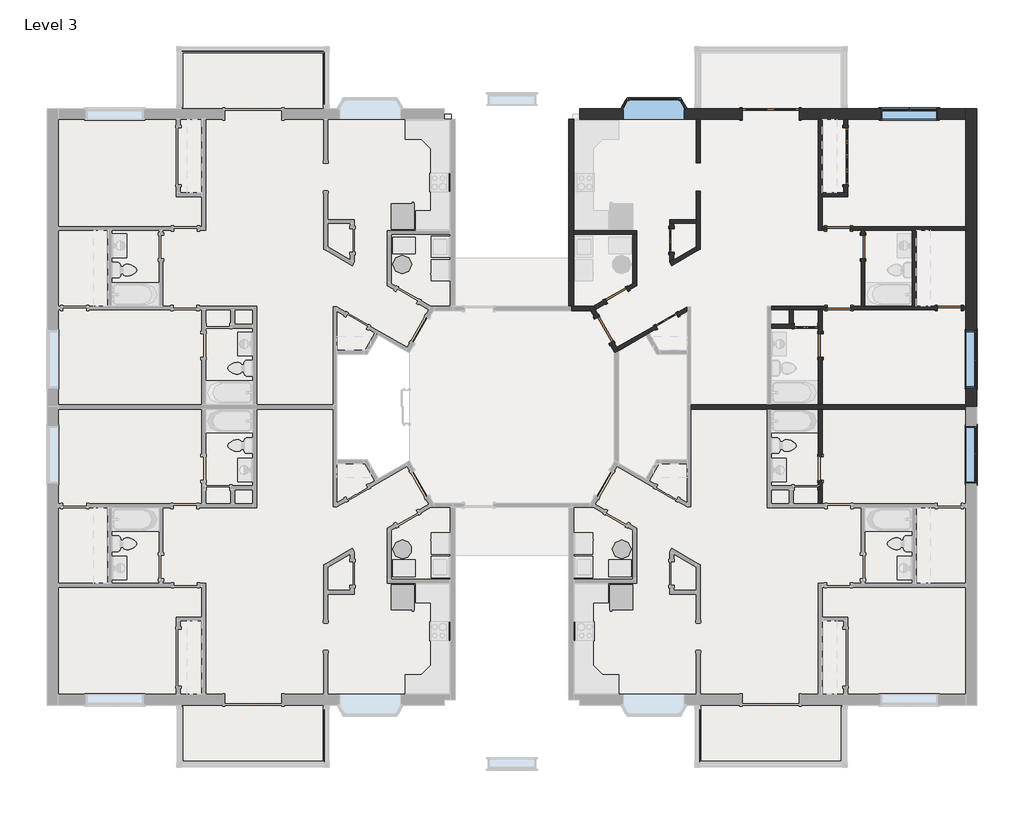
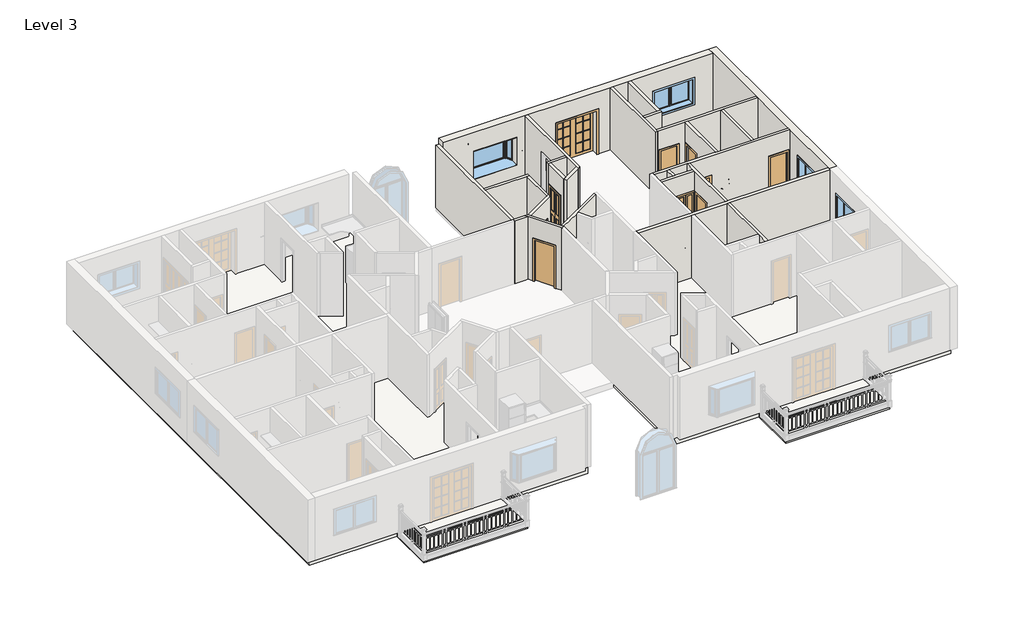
# One storey, part 4 of 5: 25 walls, 12 doors, 4 windows, 3 slabs.
"""IFC4 building model written with IfcOpenShell, lengths in millimetres."""

from ifc_helpers import new_model, si_unit, frame, origin, place, context, project, spatial, polyline, outline, extrude, faceted_brep, transform, mapped, element, save
from components import door_28b41c19, door_77c9d7c5, door_c95ce901, door_0a477ef8, door_91cbdfe0, door_39079f6b, door_140ee3fe, window_fb9100aa, window_565d5888, window_801eb773

model = new_model("IFC4")

# Units and contexts
model_context = context("Model", 3, world=origin())
ifc_project = project(units=[si_unit("LENGTHUNIT", "METRE", prefix="MILLI")], contexts=[model_context])

# Site, building, storey
site = spatial("IfcSite", under=ifc_project)
building = spatial("IfcBuilding", under=site)
storey = spatial("IfcBuildingStorey", under=building, Name="Level 3", Elevation=6096.0)

# Doors
placement = place(None, origin())
door_shape = door_28b41c19(model_context)
element("IfcDoor", 1, ObjectType="Bifold-2 Panel : 30\" x 80\"", at=placement, inside=storey, context=model_context, shape_type="MappedRepresentation", body=[
    mapped(door_shape, transform((8842.0499602, 4399.2713201, 6096.0), x_axis=(1.0, 0.0, 0.0), y_axis=(0.0, 1.0, 0.0), z_axis=(0.0, 0.0, 1.0))),
])
door_2_shape = door_77c9d7c5(model_context)
element("IfcDoor", 2, ObjectType="Bifold-2 Panel : 30\" x 80\"", at=placement, inside=storey, context=model_context, shape_type="MappedRepresentation", body=[
    mapped(door_2_shape, transform((4512.9374602, 7161.5213201, 6096.0), x_axis=(0.0, 1.0, 0.0), y_axis=(-1.0, 0.0, 0.0), z_axis=(0.0, 0.0, 1.0))),
])
element("IfcDoor", 3, ObjectType="Bifold-2 Panel : 30\" x 80\"", at=placement, inside=storey, context=model_context, shape_type="MappedRepresentation", body=[
    mapped(door_2_shape, transform((4356.3593145, 4569.8411376, 6096.0), x_axis=(0.8660254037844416, 0.4999999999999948, 0.0), y_axis=(-0.4999999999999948, 0.8660254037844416, 0.0), z_axis=(0.0, 0.0, 1.0))),
])
door_3_shape = door_c95ce901(model_context)
element("IfcDoor", 4, ObjectType="Bifold-4 Panel : 72\" x 80\"", at=placement, inside=storey, context=model_context, shape_type="MappedRepresentation", body=[
    mapped(door_3_shape, transform((10123.1624602, 9879.3213201, 6096.0), x_axis=(0.0, -1.0, 0.0), y_axis=(1.0, 0.0, 0.0), z_axis=(0.0, 0.0, 1.0))),
])
door_4_shape = door_0a477ef8(model_context)
element("IfcDoor", 5, ObjectType="Double-Glass 2 : 72\" x 84\"", at=placement, inside=storey, context=model_context, shape_type="MappedRepresentation", body=[
    mapped(door_4_shape, transform((7708.5749602, 11238.2213201, 6096.0), x_axis=(1.0, 0.0, 0.0), y_axis=(0.0, 1.0, 0.0), z_axis=(0.0, 0.0, 1.0))),
])
door_5_shape = door_91cbdfe0(model_context)
element("IfcDoor", 6, ObjectType="Single-Flush : 30\" x 80\"", at=placement, inside=storey, context=model_context, shape_type="MappedRepresentation", body=[
    mapped(door_5_shape, transform((9889.7999602, 7545.6963201, 6096.0), x_axis=(-1.0, 0.0, 0.0), y_axis=(0.0, -1.0, 0.0), z_axis=(0.0, 0.0, 1.0))),
])
element("IfcDoor", 7, ObjectType="Single-Flush : 30\" x 80\"", at=placement, inside=storey, context=model_context, shape_type="MappedRepresentation", body=[
    mapped(door_5_shape, transform((2740.2368992, 5400.5472723, 6096.0), x_axis=(-0.866025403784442, -0.49999999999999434, 0.0), y_axis=(0.49999999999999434, -0.866025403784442, 0.0), z_axis=(0.0, 0.0, 1.0))),
])
element("IfcDoor", 8, ObjectType="Single-Flush : 30\" x 80\"", at=placement, inside=storey, context=model_context, shape_type="MappedRepresentation", body=[
    mapped(door_5_shape, transform((10685.1374602, 6950.3838201, 6096.0), x_axis=(0.0, 1.0, 0.0), y_axis=(-1.0, 0.0, 0.0), z_axis=(0.0, 0.0, 1.0))),
])
door_6_shape = door_39079f6b(model_context)
element("IfcDoor", 9, ObjectType="Single-Flush : 30\" x 80\"", at=placement, inside=storey, context=model_context, shape_type="MappedRepresentation", body=[
    mapped(door_6_shape, transform((9905.6749602, 4983.4713201, 6096.0), x_axis=(-1.0, 0.0, 0.0), y_axis=(0.0, -1.0, 0.0), z_axis=(0.0, 0.0, 1.0))),
])
element("IfcDoor", 10, ObjectType="Single-Flush : 30\" x 80\"", at=placement, inside=storey, context=model_context, shape_type="MappedRepresentation", body=[
    mapped(door_6_shape, transform((9310.3624602, 3775.3838201, 6096.0), x_axis=(0.0, 1.0, 0.0), y_axis=(-1.0, 0.0, 0.0), z_axis=(0.0, 0.0, 1.0))),
])
element("IfcDoor", 11, ObjectType="Single-Flush : 30\" x 80\"", at=placement, inside=storey, context=model_context, shape_type="MappedRepresentation", body=[
    mapped(door_6_shape, transform((13461.6749602, 4983.4713201, 6096.0), x_axis=(1.0, 0.0, 0.0), y_axis=(0.0, 1.0, 0.0), z_axis=(0.0, 0.0, 1.0))),
])
door_7_shape = door_140ee3fe(model_context)
element("IfcDoor", 12, ObjectType="Single-Flush : 36\" x 80\"", at=placement, inside=storey, context=model_context, shape_type="MappedRepresentation", body=[
    mapped(door_7_shape, transform((2339.4553258, 4278.6213201, 6096.0), x_axis=(0.4999999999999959, -0.866025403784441, 0.0), y_axis=(0.866025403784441, 0.4999999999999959, 0.0), z_axis=(0.0, 0.0, 1.0))),
])

# Slabs
element("IfcSlab", 13, ObjectType="Generic - 12\"", at=placement, inside=storey, context=model_context, shape_type="SweptSolid", body=[
    extrude(outline(polyline([(-11387.4625398, -7635.5661799), (-15424.4750398, -7635.5661799), (-15424.4750398, 1744.9713201), (-6331.2750398, 1744.9713201), (-6331.2750398, 41.0951778), (-5327.4917096, 41.0951778), (-4955.4044712, -603.3788241), (-3977.9107726, -39.0225741), (-3207.8085908, -1372.8786799), (-2589.5375398, -1372.8786799), (-2589.5375398, -7635.5661799), (-6578.9250398, -7635.5661799), (-6578.9250398, -9769.1661799), (-11387.4625398, -9769.1661799), (-11387.4625398, -7635.5661799)])), frame((0.0, 0.0, 5791.2), z_axis=(0.0, 0.0, 1.0), x_axis=(1.0, 0.0, 0.0)), (0.0, 0.0, 1.0), 304.8),
])
element("IfcSlab", 14, ObjectType="Generic - 12\"", at=placement, inside=storey, context=model_context, shape_type="SweptSolid", body=[
    extrude(outline(polyline([(-11387.4625398, 11227.1088201), (-11387.4625398, 13360.7088201), (-6578.9250398, 13360.7088201), (-6578.9250398, 11227.1088201), (-2589.5375398, 11227.1088201), (-2589.5375398, 4964.4213201), (-3207.8085908, 4964.4213201), (-3977.9107726, 3630.5652142), (-4955.4044712, 4194.9214642), (-5327.4917096, 3550.4474624), (-6331.2750398, 3550.4474624), (-6331.2750398, 1846.5713201), (-15424.4750398, 1846.5713201), (-15424.4750398, 11227.1088201), (-11387.4625398, 11227.1088201)])), frame((0.0, 0.0, 5791.2), z_axis=(0.0, 0.0, 1.0), x_axis=(1.0, 0.0, 0.0)), (0.0, 0.0, 1.0), 304.8),
])
element("IfcSlab", 15, ObjectType="Generic - 12\"", at=placement, inside=storey, context=model_context, shape_type="SweptSolid", body=[
    extrude(outline(polyline([(10123.1624602, -7635.5661799), (10123.1624602, -9769.1661799), (5314.6249602, -9769.1661799), (5314.6249602, -7635.5661799), (1325.2374602, -7635.5661799), (1325.2374602, -1372.8786799), (1943.5085112, -1372.8786799), (2713.610693, -39.0225741), (3691.1043915, -603.3788241), (4063.19163, 41.0951778), (5066.9749602, 41.0951778), (5066.9749602, 1744.9713201), (14160.1749602, 1744.9713201), (14160.1749602, -7635.5661799), (10123.1624602, -7635.5661799)])), frame((0.0, 0.0, 5791.2), z_axis=(0.0, 0.0, 1.0), x_axis=(1.0, 0.0, 0.0)), (0.0, 0.0, 1.0), 304.8),
])

# Walls
element("IfcWall", 16, ObjectType="Exterior - Brick on Mtl. Stud", at=placement, inside=storey, context=model_context, shape_type="Brep", body=[
    faceted_brep([(13995.0749602, 11414.4338201, 6096.0), (8622.9749602, 11414.4338201, 6096.0), (8622.9749602, 11414.4338201, 8229.6), (6794.1749602, 11414.4338201, 8229.6), (6794.1749602, 11414.4338201, 6096.0), (1549.0749602, 11414.4338201, 6096.0), (1549.0749602, 11414.4338201, 9144.0), (13995.0749602, 11414.4338201, 9144.0), (4995.4531942, 11414.4338201, 8229.6), (2887.3374602, 11414.4338201, 8229.6), (2887.3374602, 11414.4338201, 6858.0), (4995.4531942, 11414.4338201, 6858.0), (13086.2312102, 11414.4338201, 8229.6), (11257.4312102, 11414.4338201, 8229.6), (11257.4312102, 11414.4338201, 7010.4), (13086.2312102, 11414.4338201, 7010.4), (8622.9749602, 11062.0088201, 8229.6), (8622.9749602, 11062.0088201, 6096.0), (9248.4499602, 11062.0088201, 6096.0), (9372.2749602, 11062.0088201, 6096.0), (10061.2499602, 11062.0088201, 6096.0), (10185.0749602, 11062.0088201, 6096.0), (13995.0749602, 11062.0088201, 6096.0), (13995.0749602, 11062.0088201, 9144.0), (10185.0749602, 11062.0088201, 9144.0), (10061.2499602, 11062.0088201, 9144.0), (9372.2749602, 11062.0088201, 9144.0), (9248.4499602, 11062.0088201, 9144.0), (5438.4499602, 11062.0088201, 9144.0), (5314.6249602, 11062.0088201, 9144.0), (1549.0749602, 11062.0088201, 9144.0), (1549.0749602, 11062.0088201, 6096.0), (5314.6249602, 11062.0088201, 6096.0), (5438.4499602, 11062.0088201, 6096.0), (6794.1749602, 11062.0088201, 6096.0), (6794.1749602, 11062.0088201, 8229.6), (2954.6373002, 11062.0088201, 8229.6), (4928.2376202, 11062.0088201, 8229.6), (4928.2376202, 11062.0088201, 6858.0), (2954.6373002, 11062.0088201, 6858.0), (13086.2312102, 11062.0088201, 8229.6), (13086.2312102, 11062.0088201, 7010.4), (11257.4312102, 11062.0088201, 7010.4), (11257.4312102, 11062.0088201, 8229.6), (1549.0749602, 11238.2213201, 6096.0), (2954.6373002, 11375.4830814, 8229.6), (4928.2376202, 11375.5317324, 8229.6), (2954.6373002, 11375.4830814, 6858.0), (4928.2376202, 11375.5317324, 6858.0)], [[[0, 1, 2, 3, 4, 5, 6, 7], [8, 9, 10, 11], [12, 13, 14, 15]], [[16, 17, 18, 19, 20, 21, 22, 23, 24, 25, 26, 27, 28, 29, 30, 31, 32, 33, 34, 35], [36, 37, 38, 39], [40, 41, 42, 43]], [[22, 21, 20, 19, 18, 17, 1, 0]], [[34, 33, 32, 31, 44, 5, 4]], [[7, 6, 30, 29, 28, 27, 26, 25, 24, 23]], [[0, 7, 23, 22]], [[6, 5, 44, 31, 30]], [[2, 1, 17, 16]], [[3, 2, 16, 35]], [[4, 3, 35, 34]], [[45, 9, 8, 46, 37, 36]], [[47, 39, 38, 48, 11, 10]], [[45, 36, 39, 47]], [[37, 46, 48, 38]], [[46, 8, 11, 48]], [[9, 45, 47, 10]], [[41, 40, 12, 15]], [[42, 41, 15, 14]], [[43, 42, 14, 13]], [[40, 43, 13, 12]]]),
])
element("IfcWall", 17, ObjectType="Exterior - Brick on Mtl. Stud", at=placement, inside=storey, context=model_context, shape_type="Brep", body=[
    faceted_brep([(14347.4999602, 1795.7713201, 6096.0), (14347.4999602, 11414.4338201, 6096.0), (14347.4999602, 11414.4338201, 9144.0), (14347.4999602, 1795.7713201, 9144.0), (14347.4999602, 2421.2463201, 8229.6), (14347.4999602, 4250.0463201, 8229.6), (14347.4999602, 4250.0463201, 7010.4), (14347.4999602, 2421.2463201, 7010.4), (13995.0749602, 1795.7713201, 6096.0), (13995.0749602, 1795.7713201, 9144.0), (13995.0749602, 1873.5588201, 9144.0), (13995.0749602, 4921.5588201, 9144.0), (13995.0749602, 5045.3838201, 9144.0), (13995.0749602, 7483.7838201, 9144.0), (13995.0749602, 7607.6088201, 9144.0), (13995.0749602, 11062.0088201, 9144.0), (13995.0749602, 11414.4338201, 9144.0), (13995.0749602, 11414.4338201, 6096.0), (13995.0749602, 11062.0088201, 6096.0), (13995.0749602, 7607.6088201, 6096.0), (13995.0749602, 7483.7838201, 6096.0), (13995.0749602, 5045.3838201, 6096.0), (13995.0749602, 4921.5588201, 6096.0), (13995.0749602, 1873.5588201, 6096.0), (13995.0749602, 2421.2463201, 8229.6), (13995.0749602, 2421.2463201, 7010.4), (13995.0749602, 4250.0463201, 7010.4), (13995.0749602, 4250.0463201, 8229.6)], [[[0, 1, 2, 3], [4, 5, 6, 7]], [[8, 9, 10, 11, 12, 13, 14, 15, 16, 17, 18, 19, 20, 21, 22, 23], [24, 25, 26, 27]], [[1, 0, 8, 23, 22, 21, 20, 19, 18, 17]], [[3, 2, 16, 15, 14, 13, 12, 11, 10, 9]], [[0, 3, 9, 8]], [[2, 1, 17, 16]], [[25, 24, 4, 7]], [[26, 25, 7, 6]], [[27, 26, 6, 5]], [[24, 27, 5, 4]]]),
])
element("IfcWall", 18, ObjectType="Generic - 6\" Masonry", at=placement, inside=storey, context=model_context, shape_type="Brep", body=[
    faceted_brep([(1819.7751316, 5035.8588201, 6096.0), (1352.2249602, 5035.8588201, 6096.0), (1274.4374602, 5035.8588201, 6096.0), (1274.4374602, 5035.8588201, 9144.0), (1352.2249602, 5035.8588201, 9144.0), (1819.7751316, 5035.8588201, 9144.0), (1902.2640513, 4892.9838201, 6096.0), (1902.2640513, 4892.9838201, 9144.0), (1274.4374602, 4892.9838201, 9144.0), (1274.4374602, 4892.9838201, 6096.0)], [[[0, 1, 2, 3, 4, 5]], [[6, 7, 8, 9]], [[2, 1, 0, 6, 9]], [[3, 2, 9, 8]], [[5, 4, 3, 8, 7]], [[0, 5, 7, 6]]]),
])
element("IfcWall", 19, ObjectType="Generic - 6\" Masonry", at=placement, inside=storey, context=model_context, shape_type="Brep", body=[
    faceted_brep([(2810.4023827, 3605.7920898, 6096.0), (2748.4898827, 3713.0276854, 6096.0), (2629.9220156, 3918.3932555, 6096.0), (2629.9220156, 3918.3932555, 8128.0), (2172.7220156, 4710.2868847, 8128.0), (2172.7220156, 4710.2868847, 6096.0), (2046.665471, 4928.6232245, 6096.0), (1984.752971, 5035.8588201, 6096.0), (1984.752971, 5035.8588201, 9144.0), (2046.665471, 4928.6232245, 9144.0), (2748.4898827, 3713.0276854, 9144.0), (2810.4023827, 3605.7920898, 9144.0), (2506.188636, 3846.9557555, 8128.0), (2506.188636, 3846.9557555, 6096.0), (2667.5273827, 3567.5088489, 6096.0), (2686.6690032, 3534.3545898, 6096.0), (2686.6690032, 3534.3545898, 9144.0), (2667.5273827, 3567.5088489, 9144.0), (1902.2640513, 4892.9838201, 9144.0), (1819.7751316, 5035.8588201, 9144.0), (1819.7751316, 5035.8588201, 6096.0), (1902.2640513, 4892.9838201, 6096.0), (2048.988636, 4638.8493847, 6096.0), (2048.988636, 4638.8493847, 8128.0)], [[[0, 1, 2, 3, 4, 5, 6, 7, 8, 9, 10, 11]], [[12, 13, 14, 15, 16, 17, 18, 19, 20, 21, 22, 23]], [[15, 14, 13, 2, 1, 0]], [[22, 21, 20, 7, 6, 5]], [[11, 10, 9, 8, 19, 18, 17, 16]], [[0, 11, 16, 15]], [[8, 7, 20, 19]], [[3, 2, 13, 12]], [[4, 3, 12, 23]], [[5, 4, 23, 22]]]),
])
element("IfcWall", 20, ObjectType="Interior - 4 7/8\" Partition (1-hr)", at=placement, inside=storey, context=model_context, shape_type="Brep", body=[
    faceted_brep([(9372.2749602, -1330.0161799, 6096.0), (9372.2749602, -564.8411799, 6096.0), (9372.2749602, -564.8411799, 8128.0), (9372.2749602, 197.1588201, 8128.0), (9372.2749602, 197.1588201, 6096.0), (9372.2749602, 1717.9838201, 6096.0), (9372.2749602, 1717.9838201, 9144.0), (9372.2749602, -1330.0161799, 9144.0), (9248.4499602, -564.8411799, 8128.0), (9248.4499602, -564.8411799, 6096.0), (9248.4499602, -745.8161799, 6096.0), (9248.4499602, -869.6411799, 6096.0), (9248.4499602, -1330.0161799, 6096.0), (9248.4499602, -1330.0161799, 9144.0), (9248.4499602, -869.6411799, 9144.0), (9248.4499602, -745.8161799, 9144.0), (9248.4499602, 1717.9838201, 9144.0), (9248.4499602, 1717.9838201, 6096.0), (9248.4499602, 197.1588201, 6096.0), (9248.4499602, 197.1588201, 8128.0)], [[[0, 1, 2, 3, 4, 5, 6, 7]], [[8, 9, 10, 11, 12, 13, 14, 15, 16, 17, 18, 19]], [[12, 11, 10, 9, 1, 0]], [[18, 17, 5, 4]], [[7, 6, 16, 15, 14, 13]], [[0, 7, 13, 12]], [[6, 5, 17, 16]], [[2, 1, 9, 8]], [[3, 2, 8, 19]], [[4, 3, 19, 18]]]),
])
element("IfcWall", 21, ObjectType="Interior - 4 7/8\" Partition (1-hr)", at=placement, inside=storey, context=model_context, shape_type="Brep", body=[
    faceted_brep([(5314.6249602, 11062.0088201, 6096.0), (5314.6249602, 9663.4213201, 6096.0), (5314.6249602, 9663.4213201, 8128.0), (5314.6249602, 8749.0213201, 8128.0), (5314.6249602, 8749.0213201, 6096.0), (5314.6249602, 7836.2088201, 6096.0), (5314.6249602, 7712.3838201, 6096.0), (5314.6249602, 6958.3613094, 6096.0), (5314.6249602, 6815.3805152, 6096.0), (5314.6249602, 6815.3805152, 9144.0), (5314.6249602, 6958.3613094, 9144.0), (5314.6249602, 7712.3838201, 9144.0), (5314.6249602, 7836.2088201, 9144.0), (5314.6249602, 11062.0088201, 9144.0), (5438.4499602, 9663.4213201, 8128.0), (5438.4499602, 9663.4213201, 6096.0), (5438.4499602, 11062.0088201, 6096.0), (5438.4499602, 11062.0088201, 9144.0), (5438.4499602, 6886.8709123, 9144.0), (5438.4499602, 6886.8709123, 6096.0), (5438.4499602, 8749.0213201, 6096.0), (5438.4499602, 8749.0213201, 8128.0)], [[[0, 1, 2, 3, 4, 5, 6, 7, 8, 9, 10, 11, 12, 13]], [[14, 15, 16, 17, 18, 19, 20, 21]], [[16, 15, 1, 0]], [[20, 19, 8, 7, 6, 5, 4]], [[13, 12, 11, 10, 9, 18, 17]], [[9, 8, 19, 18]], [[0, 13, 17, 16]], [[4, 3, 21, 20]], [[2, 1, 15, 14]], [[3, 2, 14, 21]]]),
])
element("IfcWall", 22, ObjectType="Interior - 4 7/8\" Partition (1-hr)", at=placement, inside=storey, context=model_context, shape_type="Brep", body=[
    faceted_brep([(9248.4499602, 11062.0088201, 6096.0), (9248.4499602, 7483.7838201, 6096.0), (9248.4499602, 7483.7838201, 9144.0), (9248.4499602, 11062.0088201, 9144.0), (9372.2749602, 11062.0088201, 6096.0), (9372.2749602, 11062.0088201, 9144.0), (9372.2749602, 8696.6338201, 9144.0), (9372.2749602, 8572.8088201, 9144.0), (9372.2749602, 7607.6088201, 9144.0), (9372.2749602, 7483.7838201, 9144.0), (9372.2749602, 7483.7838201, 6096.0), (9372.2749602, 7607.6088201, 6096.0), (9372.2749602, 8572.8088201, 6096.0), (9372.2749602, 8696.6338201, 6096.0)], [[[0, 1, 2, 3]], [[4, 5, 6, 7, 8, 9, 10, 11, 12, 13]], [[1, 0, 4, 13, 12, 11, 10]], [[3, 2, 9, 8, 7, 6, 5]], [[2, 1, 10, 9]], [[0, 3, 5, 4]]]),
])
element("IfcWall", 23, ObjectType="Interior - 4 7/8\" Partition (1-hr)", at=placement, inside=storey, context=model_context, shape_type="Brep", body=[
    faceted_brep([(9372.2749602, 7483.7838201, 6096.0), (9508.7999602, 7483.7838201, 6096.0), (9508.7999602, 7483.7838201, 8128.0), (10270.7999602, 7483.7838201, 8128.0), (10270.7999602, 7483.7838201, 6096.0), (10623.2249602, 7483.7838201, 6096.0), (10747.0499602, 7483.7838201, 6096.0), (12271.0499602, 7483.7838201, 6096.0), (12394.8749602, 7483.7838201, 6096.0), (13995.0749602, 7483.7838201, 6096.0), (13995.0749602, 7483.7838201, 9144.0), (12394.8749602, 7483.7838201, 9144.0), (12271.0499602, 7483.7838201, 9144.0), (10747.0499602, 7483.7838201, 9144.0), (10623.2249602, 7483.7838201, 9144.0), (9372.2749602, 7483.7838201, 9144.0), (9508.7999602, 7607.6088201, 8128.0), (9508.7999602, 7607.6088201, 6096.0), (9372.2749602, 7607.6088201, 6096.0), (9372.2749602, 7607.6088201, 9144.0), (13995.0749602, 7607.6088201, 9144.0), (13995.0749602, 7607.6088201, 6096.0), (10270.7999602, 7607.6088201, 6096.0), (10270.7999602, 7607.6088201, 8128.0)], [[[0, 1, 2, 3, 4, 5, 6, 7, 8, 9, 10, 11, 12, 13, 14, 15]], [[16, 17, 18, 19, 20, 21, 22, 23]], [[18, 17, 1, 0]], [[22, 21, 9, 8, 7, 6, 5, 4]], [[15, 14, 13, 12, 11, 10, 20, 19]], [[10, 9, 21, 20]], [[0, 15, 19, 18]], [[2, 1, 17, 16]], [[3, 2, 16, 23]], [[4, 3, 23, 22]]]),
])
element("IfcWall", 24, ObjectType="Interior - 4 7/8\" Partition (1-hr)", at=placement, inside=storey, context=model_context, shape_type="SweptSolid", body=[
    extrude(outline(polyline([(7483.7838201, 6096.0), (7331.3838201, 6096.0), (7331.3838201, 8128.0), (6569.3838201, 8128.0), (6569.3838201, 6096.0), (5045.3838201, 6096.0), (5045.3838201, 9144.0), (7483.7838201, 9144.0), (7483.7838201, 6096.0)])), frame((10623.2249602, 0.0, 0.0), z_axis=(1.0, 0.0, 0.0), x_axis=(0.0, 1.0, 0.0)), (0.0, 0.0, 1.0), 123.825),
])
element("IfcWall", 25, ObjectType="Interior - 4 7/8\" Partition (1-hr)", at=placement, inside=storey, context=model_context, shape_type="Brep", body=[
    faceted_brep([(9248.4499602, 4921.5588201, 6096.0), (9248.4499602, 4461.1838201, 6096.0), (9248.4499602, 4337.3588201, 6096.0), (9248.4499602, 4156.3838201, 6096.0), (9248.4499602, 4156.3838201, 8128.0), (9248.4499602, 3394.3838201, 8128.0), (9248.4499602, 3394.3838201, 6096.0), (9248.4499602, 1873.5588201, 6096.0), (9248.4499602, 1873.5588201, 9144.0), (9248.4499602, 4337.3588201, 9144.0), (9248.4499602, 4461.1838201, 9144.0), (9248.4499602, 4921.5588201, 9144.0), (9372.2749602, 4156.3838201, 8128.0), (9372.2749602, 4156.3838201, 6096.0), (9372.2749602, 4921.5588201, 6096.0), (9372.2749602, 4921.5588201, 9144.0), (9372.2749602, 1873.5588201, 9144.0), (9372.2749602, 1873.5588201, 6096.0), (9372.2749602, 3394.3838201, 6096.0), (9372.2749602, 3394.3838201, 8128.0)], [[[0, 1, 2, 3, 4, 5, 6, 7, 8, 9, 10, 11]], [[12, 13, 14, 15, 16, 17, 18, 19]], [[14, 13, 3, 2, 1, 0]], [[18, 17, 7, 6]], [[11, 10, 9, 8, 16, 15]], [[0, 11, 15, 14]], [[8, 7, 17, 16]], [[4, 3, 13, 12]], [[5, 4, 12, 19]], [[6, 5, 19, 18]]]),
])
element("IfcWall", 26, ObjectType="Interior - 4 7/8\" Partition (1-hr)", at=placement, inside=storey, context=model_context, shape_type="Brep", body=[
    faceted_brep([(9372.2749602, 8572.8088201, 6096.0), (10185.0749602, 8572.8088201, 6096.0), (10185.0749602, 8572.8088201, 9144.0), (9372.2749602, 8572.8088201, 9144.0), (9372.2749602, 8696.6338201, 6096.0), (9372.2749602, 8696.6338201, 9144.0), (10061.2499602, 8696.6338201, 9144.0), (10185.0749602, 8696.6338201, 9144.0), (10185.0749602, 8696.6338201, 6096.0), (10061.2499602, 8696.6338201, 6096.0)], [[[0, 1, 2, 3]], [[4, 5, 6, 7, 8, 9]], [[1, 0, 4, 9, 8]], [[3, 2, 7, 6, 5]], [[2, 1, 8, 7]], [[0, 3, 5, 4]]]),
])
element("IfcWall", 27, ObjectType="Interior - 4 7/8\" Partition (1-hr)", at=placement, inside=storey, context=model_context, shape_type="SweptSolid", body=[
    extrude(outline(polyline([(8964.9213201, 8128.0), (8964.9213201, 6096.0), (8696.6338201, 6096.0), (8696.6338201, 9144.0), (11062.0088201, 9144.0), (11062.0088201, 6096.0), (10793.7213201, 6096.0), (10793.7213201, 8128.0), (8964.9213201, 8128.0)])), frame((10061.2499602, 0.0, 0.0), z_axis=(1.0, 0.0, 0.0), x_axis=(0.0, 1.0, 0.0)), (0.0, 0.0, 1.0), 123.825),
])
element("IfcWall", 28, ObjectType="Interior - 4 7/8\" Partition (1-hr)", at=placement, inside=storey, context=model_context, shape_type="SweptSolid", body=[
    extrude(outline(polyline([(12271.0499602, 5045.3838201), (12271.0499602, 7483.7838201), (12394.8749602, 7483.7838201), (12394.8749602, 5045.3838201), (12271.0499602, 5045.3838201)])), frame((0.0, 0.0, 6096.0), z_axis=(0.0, 0.0, 1.0), x_axis=(1.0, 0.0, 0.0)), (0.0, 0.0, 1.0), 3048.0),
])
element("IfcWall", 29, ObjectType="Interior - 4 7/8\" Partition (1-hr)", at=placement, inside=storey, context=model_context, shape_type="Brep", body=[
    faceted_brep([(13995.0749602, 5045.3838201, 6096.0), (13842.6749602, 5045.3838201, 6096.0), (13842.6749602, 5045.3838201, 8128.0), (13080.6749602, 5045.3838201, 8128.0), (13080.6749602, 5045.3838201, 6096.0), (12394.8749602, 5045.3838201, 6096.0), (12271.0499602, 5045.3838201, 6096.0), (10747.0499602, 5045.3838201, 6096.0), (10623.2249602, 5045.3838201, 6096.0), (10286.6749602, 5045.3838201, 6096.0), (10286.6749602, 5045.3838201, 8128.0), (9524.6749602, 5045.3838201, 8128.0), (9524.6749602, 5045.3838201, 6096.0), (7724.4499602, 5045.3838201, 6096.0), (7724.4499602, 5045.3838201, 9144.0), (10623.2249602, 5045.3838201, 9144.0), (10747.0499602, 5045.3838201, 9144.0), (12271.0499602, 5045.3838201, 9144.0), (12394.8749602, 5045.3838201, 9144.0), (13995.0749602, 5045.3838201, 9144.0), (13842.6749602, 4921.5588201, 8128.0), (13842.6749602, 4921.5588201, 6096.0), (13995.0749602, 4921.5588201, 6096.0), (13995.0749602, 4921.5588201, 9144.0), (9372.2749602, 4921.5588201, 9144.0), (9248.4499602, 4921.5588201, 9144.0), (8435.6499602, 4921.5588201, 9144.0), (8311.8249602, 4921.5588201, 9144.0), (7724.4499602, 4921.5588201, 9144.0), (7724.4499602, 4921.5588201, 6096.0), (8311.8249602, 4921.5588201, 6096.0), (8435.6499602, 4921.5588201, 6096.0), (9248.4499602, 4921.5588201, 6096.0), (9372.2749602, 4921.5588201, 6096.0), (9524.6749602, 4921.5588201, 6096.0), (9524.6749602, 4921.5588201, 8128.0), (10286.6749602, 4921.5588201, 8128.0), (10286.6749602, 4921.5588201, 6096.0), (13080.6749602, 4921.5588201, 6096.0), (13080.6749602, 4921.5588201, 8128.0)], [[[0, 1, 2, 3, 4, 5, 6, 7, 8, 9, 10, 11, 12, 13, 14, 15, 16, 17, 18, 19]], [[20, 21, 22, 23, 24, 25, 26, 27, 28, 29, 30, 31, 32, 33, 34, 35, 36, 37, 38, 39]], [[13, 12, 34, 33, 32, 31, 30, 29]], [[22, 21, 1, 0]], [[38, 37, 9, 8, 7, 6, 5, 4]], [[19, 18, 17, 16, 15, 14, 28, 27, 26, 25, 24, 23]], [[14, 13, 29, 28]], [[0, 19, 23, 22]], [[35, 34, 12, 11]], [[36, 35, 11, 10]], [[37, 36, 10, 9]], [[2, 1, 21, 20]], [[3, 2, 20, 39]], [[4, 3, 39, 38]]]),
])
element("IfcWall", 30, ObjectType="Interior - 4 7/8\" Partition (1-hr)", at=placement, inside=storey, context=model_context, shape_type="Brep", body=[
    faceted_brep([(5314.6249602, 7836.2088201, 6096.0), (4451.0249602, 7836.2088201, 6096.0), (4451.0249602, 7836.2088201, 9144.0), (5314.6249602, 7836.2088201, 9144.0), (5314.6249602, 7712.3838201, 6096.0), (5314.6249602, 7712.3838201, 9144.0), (4574.8499602, 7712.3838201, 9144.0), (4451.0249602, 7712.3838201, 9144.0), (4451.0249602, 7712.3838201, 6096.0), (4574.8499602, 7712.3838201, 6096.0)], [[[0, 1, 2, 3]], [[4, 5, 6, 7, 8, 9]], [[1, 0, 4, 9, 8]], [[3, 2, 7, 6, 5]], [[2, 1, 8, 7]], [[0, 3, 5, 4]]]),
])
element("IfcWall", 31, ObjectType="Interior - 4 7/8\" Partition (1-hr)", at=placement, inside=storey, context=model_context, shape_type="Brep", body=[
    faceted_brep([(4451.0249602, 7712.3838201, 6096.0), (4451.0249602, 7542.5213201, 6096.0), (4451.0249602, 7542.5213201, 8128.0), (4451.0249602, 6780.5213201, 8128.0), (4451.0249602, 6780.5213201, 6096.0), (4451.0249602, 6459.7616169, 6096.0), (4451.0249602, 6459.7616169, 9144.0), (4451.0249602, 7712.3838201, 9144.0), (4574.8499602, 7542.5213201, 8128.0), (4574.8499602, 7542.5213201, 6096.0), (4574.8499602, 7712.3838201, 6096.0), (4574.8499602, 7712.3838201, 9144.0), (4574.8499602, 6531.252014, 9144.0), (4574.8499602, 6531.252014, 6096.0), (4574.8499602, 6780.5213201, 6096.0), (4574.8499602, 6780.5213201, 8128.0)], [[[0, 1, 2, 3, 4, 5, 6, 7]], [[8, 9, 10, 11, 12, 13, 14, 15]], [[10, 9, 1, 0]], [[14, 13, 5, 4]], [[7, 6, 12, 11]], [[6, 5, 13, 12]], [[0, 7, 11, 10]], [[2, 1, 9, 8]], [[3, 2, 8, 15]], [[4, 3, 15, 14]]]),
])
element("IfcWall", 32, ObjectType="Interior - 4 7/8\" Partition (1-hr)", at=placement, inside=storey, context=model_context, shape_type="Brep", body=[
    faceted_brep([(2046.665471, 4928.6232245, 6096.0), (2441.2374703, 5156.4294745, 6096.0), (2441.2374703, 5156.4294745, 8128.0), (3101.148828, 5537.4294745, 8128.0), (3101.148828, 5537.4294745, 6096.0), (3384.2249602, 5700.8635556, 6096.0), (3384.2249602, 5700.8635556, 9144.0), (2046.665471, 4928.6232245, 9144.0), (2379.3249703, 5263.6650701, 8128.0), (2379.3249703, 5263.6650701, 6096.0), (1984.752971, 5035.8588201, 6096.0), (1984.752971, 5035.8588201, 9144.0), (3260.3999602, 5772.3539527, 9144.0), (3384.2249602, 5843.8443497, 9144.0), (3384.2249602, 5843.8443497, 6096.0), (3260.3999602, 5772.3539527, 6096.0), (3039.236328, 5644.6650701, 6096.0), (3039.236328, 5644.6650701, 8128.0)], [[[0, 1, 2, 3, 4, 5, 6, 7]], [[8, 9, 10, 11, 12, 13, 14, 15, 16, 17]], [[10, 9, 1, 0]], [[16, 15, 14, 5, 4]], [[7, 6, 13, 12, 11]], [[6, 5, 14, 13]], [[0, 7, 11, 10]], [[2, 1, 9, 8]], [[3, 2, 8, 17]], [[4, 3, 17, 16]]]),
])
element("IfcWall", 33, ObjectType="Interior - 4 7/8\" Partition (1-hr)", at=placement, inside=storey, context=model_context, shape_type="Brep", body=[
    faceted_brep([(3384.2249602, 7480.6088201, 6096.0), (1352.2249602, 7480.6088201, 6096.0), (1352.2249602, 7480.6088201, 9144.0), (3384.2249602, 7480.6088201, 9144.0), (3384.2249602, 7356.7838201, 6096.0), (3384.2249602, 7356.7838201, 9144.0), (3260.3999602, 7356.7838201, 9144.0), (1352.2249602, 7356.7838201, 9144.0), (1352.2249602, 7356.7838201, 6096.0), (3260.3999602, 7356.7838201, 6096.0)], [[[0, 1, 2, 3]], [[4, 5, 6, 7, 8, 9]], [[1, 0, 4, 9, 8]], [[3, 2, 7, 6, 5]], [[0, 3, 5, 4]], [[2, 1, 8, 7]]]),
])
element("IfcWall", 34, ObjectType="Interior - 4 7/8\" Partition (1-hr)", at=placement, inside=storey, context=model_context, shape_type="SweptSolid", body=[
    extrude(outline(polyline([(3260.3999602, 5772.3539527), (3260.3999602, 7356.7838201), (3384.2249602, 7356.7838201), (3384.2249602, 5843.8443497), (3260.3999602, 5772.3539527)])), frame((0.0, 0.0, 6096.0), z_axis=(0.0, 0.0, 1.0), x_axis=(1.0, 0.0, 0.0)), (0.0, 0.0, 1.0), 3048.0),
])
element("IfcWall", 35, ObjectType="Interior - 4 7/8\" Partition (1-hr)", at=placement, inside=storey, context=model_context, shape_type="Brep", body=[
    faceted_brep([(4512.9374602, 6352.5260213, 6096.0), (5314.6249602, 6815.3805152, 6096.0), (5314.6249602, 6815.3805152, 9144.0), (4512.9374602, 6352.5260213, 9144.0), (4451.0249602, 6459.7616169, 6096.0), (4451.0249602, 6459.7616169, 9144.0), (4574.8499602, 6531.252014, 9144.0), (5314.6249602, 6958.3613094, 9144.0), (5314.6249602, 6958.3613094, 6096.0), (4574.8499602, 6531.252014, 6096.0)], [[[0, 1, 2, 3]], [[4, 5, 6, 7, 8, 9]], [[1, 0, 4, 9, 8]], [[3, 2, 7, 6, 5]], [[0, 3, 5, 4]], [[2, 1, 8, 7]]]),
])
element("IfcWall", 36, ObjectType="Interior - 4 7/8\" Partition (1-hr)", at=placement, inside=storey, context=model_context, shape_type="Brep", body=[
    faceted_brep([(5012.9999602, 5020.4431882, 6096.0), (4655.3587434, 4813.9589354, 6096.0), (4655.3587434, 4813.9589354, 8128.0), (3995.4473857, 4432.9589354, 8128.0), (3995.4473857, 4432.9589354, 6096.0), (2748.4898827, 3713.0276854, 6096.0), (2748.4898827, 3713.0276854, 9144.0), (5012.9999602, 5020.4431882, 9144.0), (4717.2712434, 4706.7233398, 8128.0), (4717.2712434, 4706.7233398, 6096.0), (5012.9999602, 4877.462394, 6096.0), (5012.9999602, 4877.462394, 9144.0), (3786.521266, 4169.3545898, 9144.0), (3679.2856704, 4107.4420898, 9144.0), (2810.4023827, 3605.7920898, 9144.0), (2810.4023827, 3605.7920898, 6096.0), (3679.2856704, 4107.4420898, 6096.0), (3786.521266, 4169.3545898, 6096.0), (4057.3598857, 4325.7233398, 6096.0), (4057.3598857, 4325.7233398, 8128.0)], [[[0, 1, 2, 3, 4, 5, 6, 7]], [[8, 9, 10, 11, 12, 13, 14, 15, 16, 17, 18, 19]], [[10, 9, 1, 0]], [[18, 17, 16, 15, 5, 4]], [[7, 6, 14, 13, 12, 11]], [[6, 5, 15, 14]], [[0, 7, 11, 10]], [[2, 1, 9, 8]], [[3, 2, 8, 19]], [[4, 3, 19, 18]]]),
])
element("IfcWall", 37, ObjectType="Interior - 4 7/8\" Partition (1-hr)", at=placement, inside=storey, context=model_context, shape_type="Brep", body=[
    faceted_brep([(9248.4499602, 4337.3588201, 9144.0), (7724.4499602, 4337.3588201, 9144.0), (7724.4499602, 4337.3588201, 6096.0), (8461.0499602, 4337.3588201, 6096.0), (8461.0499602, 4337.3588201, 8128.0), (9223.0499602, 4337.3588201, 8128.0), (9223.0499602, 4337.3588201, 6096.0), (9248.4499602, 4337.3588201, 6096.0), (7724.4499602, 4461.1838201, 9144.0), (8311.8249602, 4461.1838201, 9144.0), (8435.6499602, 4461.1838201, 9144.0), (9248.4499602, 4461.1838201, 9144.0), (9248.4499602, 4461.1838201, 6096.0), (9223.0499602, 4461.1838201, 6096.0), (9223.0499602, 4461.1838201, 8128.0), (8461.0499602, 4461.1838201, 8128.0), (8461.0499602, 4461.1838201, 6096.0), (8435.6499602, 4461.1838201, 6096.0), (8311.8249602, 4461.1838201, 6096.0), (7724.4499602, 4461.1838201, 6096.0)], [[[0, 1, 2, 3, 4, 5, 6, 7]], [[8, 9, 10, 11, 12, 13, 14, 15, 16, 17, 18, 19]], [[2, 19, 18, 17, 16, 3]], [[12, 7, 6, 13]], [[1, 0, 11, 10, 9, 8]], [[5, 14, 13, 6]], [[14, 5, 4, 15]], [[15, 4, 3, 16]], [[2, 1, 8, 19]], [[0, 7, 12, 11]]]),
])
element("IfcWall", 38, ObjectType="Interior - 4 7/8\" Partition (1-hr)", at=placement, inside=storey, context=model_context, shape_type="SweptSolid", body=[
    extrude(outline(polyline([(8435.6499602, 4921.5588201), (8435.6499602, 4461.1838201), (8311.8249602, 4461.1838201), (8311.8249602, 4921.5588201), (8435.6499602, 4921.5588201)])), frame((0.0, 0.0, 6096.0), z_axis=(0.0, 0.0, 1.0), x_axis=(1.0, 0.0, 0.0)), (0.0, 0.0, 1.0), 3048.0),
])
element("IfcWall", 39, ObjectType="Interior - 6 1/8\" Partition (2-hr)", at=placement, inside=storey, context=model_context, shape_type="Brep", body=[
    faceted_brep([(5136.8249602, 1717.9838201, 6096.0), (7600.6249602, 1717.9838201, 6096.0), (7724.4499602, 1717.9838201, 6096.0), (9248.4499602, 1717.9838201, 6096.0), (9372.2749602, 1717.9838201, 6096.0), (13995.0749602, 1717.9838201, 6096.0), (13995.0749602, 1717.9838201, 9144.0), (9372.2749602, 1717.9838201, 9144.0), (9248.4499602, 1717.9838201, 9144.0), (7724.4499602, 1717.9838201, 9144.0), (7600.6249602, 1717.9838201, 9144.0), (5136.8249602, 1717.9838201, 9144.0), (5136.8249602, 1873.5588201, 6096.0), (5136.8249602, 1873.5588201, 9144.0), (7600.6249602, 1873.5588201, 9144.0), (7724.4499602, 1873.5588201, 9144.0), (9248.4499602, 1873.5588201, 9144.0), (9372.2749602, 1873.5588201, 9144.0), (13995.0749602, 1873.5588201, 9144.0), (13995.0749602, 1873.5588201, 6096.0), (9372.2749602, 1873.5588201, 6096.0), (9248.4499602, 1873.5588201, 6096.0), (7724.4499602, 1873.5588201, 6096.0), (7600.6249602, 1873.5588201, 6096.0), (13995.0749602, 1795.7713201, 6096.0), (13995.0749602, 1795.7713201, 9144.0)], [[[0, 1, 2, 3, 4, 5, 6, 7, 8, 9, 10, 11]], [[12, 13, 14, 15, 16, 17, 18, 19, 20, 21, 22, 23]], [[5, 4, 3, 2, 1, 0, 12, 23, 22, 21, 20, 19, 24]], [[11, 10, 9, 8, 7, 6, 25, 18, 17, 16, 15, 14, 13]], [[0, 11, 13, 12]], [[6, 5, 24, 19, 18, 25]]]),
])
element("IfcWall", 40, ObjectType="Interior - 6 1/8\" Partition (2-hr)", at=placement, inside=storey, context=model_context, shape_type="Brep", body=[
    faceted_brep([(1352.2249602, 5035.8588201, 6096.0), (1352.2249602, 7356.7838201, 6096.0), (1352.2249602, 7480.6088201, 6096.0), (1352.2249602, 11062.0088201, 6096.0), (1352.2249602, 11062.0088201, 9144.0), (1352.2249602, 7480.6088201, 9144.0), (1352.2249602, 7356.7838201, 9144.0), (1352.2249602, 5035.8588201, 9144.0), (1196.6499602, 5035.8588201, 6096.0), (1196.6499602, 5035.8588201, 9144.0), (1196.6499602, 11062.0088201, 9144.0), (1196.6499602, 11062.0088201, 6096.0), (1274.4374602, 5035.8588201, 6096.0), (1274.4374602, 5035.8588201, 9144.0)], [[[0, 1, 2, 3, 4, 5, 6, 7]], [[8, 9, 10, 11]], [[3, 2, 1, 0, 12, 8, 11]], [[7, 6, 5, 4, 10, 9, 13]], [[4, 3, 11, 10]], [[0, 7, 13, 9, 8, 12]]]),
])

# Windows
window_shape = window_fb9100aa(model_context)
element("IfcWindow", 41, ObjectType="Bay-30 Deg : 84\" x 54\"", at=placement, inside=storey, context=model_context, shape_type="MappedRepresentation", body=[
    mapped(window_shape, transform((3941.4861112, 11238.2213201, 6096.0), x_axis=(1.0, 0.0, 0.0), y_axis=(0.0, 1.0, 0.0), z_axis=(0.0, 0.0, 1.0))),
])
window_2_shape = window_565d5888(model_context)
element("IfcWindow", 42, ObjectType="Casement Dbl with Trim : 72\" x 48\"", at=placement, inside=storey, context=model_context, shape_type="MappedRepresentation", body=[
    mapped(window_2_shape, transform((12171.8312102, 11219.1713201, 5791.2), x_axis=(1.0, 0.0, 0.0), y_axis=(0.0, 1.0, 0.0), z_axis=(0.0, 0.0, 1.0))),
])
element("IfcWindow", 43, ObjectType="Casement Dbl with Trim : 72\" x 48\"", at=placement, inside=storey, context=model_context, shape_type="MappedRepresentation", body=[
    mapped(window_2_shape, transform((14152.2374602, 3335.6463201, 5791.2), x_axis=(0.0, -1.0, 0.0), y_axis=(1.0, 0.0, 0.0), z_axis=(0.0, 0.0, 1.0))),
])
window_3_shape = window_801eb773(model_context)
element("IfcWindow", 44, ObjectType="Casement Dbl with Trim : 72\" x 48\"", at=placement, inside=storey, context=model_context, shape_type="MappedRepresentation", body=[
    mapped(window_3_shape, transform((14152.2374602, 255.8963201, 5791.2), x_axis=(0.0, 1.0, 0.0), y_axis=(-1.0, 0.0, 0.0), z_axis=(0.0, 0.0, 1.0))),
])

save(model, "model.ifc")
